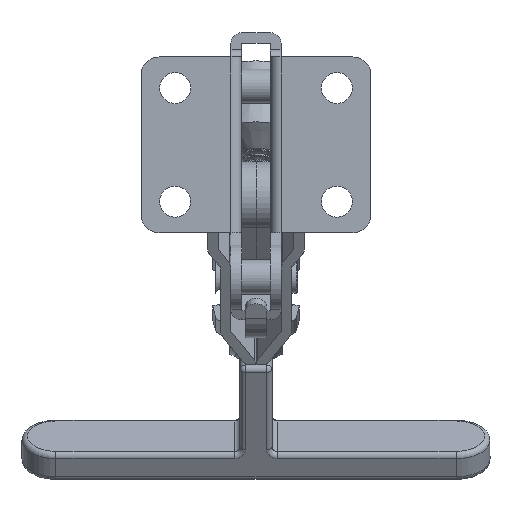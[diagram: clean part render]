
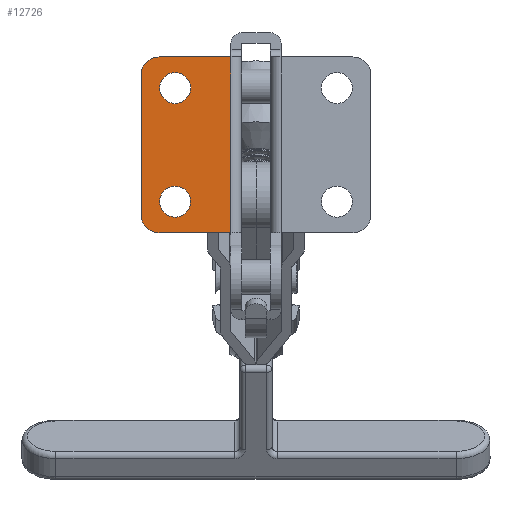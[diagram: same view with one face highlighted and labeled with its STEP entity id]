
A CAD part, front view. The second image highlights one B-rep face of the part: STEP entity #12726.
In plain terms, the highlighted planar face has unit normal (0, -1, 0).
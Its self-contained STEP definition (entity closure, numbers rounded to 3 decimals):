
#947=FACE_BOUND('',#2419,.T.);
#948=FACE_BOUND('',#2420,.T.);
#1168=PLANE('',#13614);
#1685=FACE_OUTER_BOUND('',#2418,.T.);
#2418=EDGE_LOOP('',(#10728,#10729,#10730,#10731,#10732,#10733));
#2419=EDGE_LOOP('',(#10734,#10735));
#2420=EDGE_LOOP('',(#10736,#10737));
#3412=LINE('',#27738,#4449);
#3442=LINE('',#27820,#4479);
#3445=LINE('',#27826,#4482);
#3446=LINE('',#27829,#4483);
#4449=VECTOR('',#15572,1000.);
#4479=VECTOR('',#15636,1000.);
#4482=VECTOR('',#15641,1000.);
#4483=VECTOR('',#15646,1000.);
#4886=CIRCLE('',#13552,4.35);
#4887=CIRCLE('',#13553,4.35);
#4890=CIRCLE('',#13557,4.35);
#4891=CIRCLE('',#13558,4.35);
#4932=CIRCLE('',#13615,5.);
#4933=CIRCLE('',#13616,5.);
#5912=VERTEX_POINT('',#27611);
#5913=VERTEX_POINT('',#27613);
#5916=VERTEX_POINT('',#27621);
#5917=VERTEX_POINT('',#27623);
#5965=VERTEX_POINT('',#27736);
#5966=VERTEX_POINT('',#27737);
#6000=VERTEX_POINT('',#27818);
#6001=VERTEX_POINT('',#27819);
#6002=VERTEX_POINT('',#27824);
#6003=VERTEX_POINT('',#27825);
#7558=EDGE_CURVE('',#5912,#5913,#4886,.T.);
#7559=EDGE_CURVE('',#5913,#5912,#4887,.T.);
#7563=EDGE_CURVE('',#5916,#5917,#4890,.T.);
#7564=EDGE_CURVE('',#5917,#5916,#4891,.T.);
#7619=EDGE_CURVE('',#5965,#5966,#3412,.T.);
#7660=EDGE_CURVE('',#6000,#6001,#3442,.T.);
#7663=EDGE_CURVE('',#6002,#6003,#3445,.T.);
#7664=EDGE_CURVE('',#6002,#6000,#4932,.T.);
#7665=EDGE_CURVE('',#6001,#5965,#4933,.T.);
#7666=EDGE_CURVE('',#5966,#6003,#3446,.T.);
#10728=ORIENTED_EDGE('',*,*,#7663,.F.);
#10729=ORIENTED_EDGE('',*,*,#7664,.T.);
#10730=ORIENTED_EDGE('',*,*,#7660,.T.);
#10731=ORIENTED_EDGE('',*,*,#7665,.T.);
#10732=ORIENTED_EDGE('',*,*,#7619,.T.);
#10733=ORIENTED_EDGE('',*,*,#7666,.T.);
#10734=ORIENTED_EDGE('',*,*,#7559,.F.);
#10735=ORIENTED_EDGE('',*,*,#7558,.F.);
#10736=ORIENTED_EDGE('',*,*,#7564,.F.);
#10737=ORIENTED_EDGE('',*,*,#7563,.F.);
#12726=ADVANCED_FACE('',(#1685,#947,#948),#1168,.F.);
#13552=AXIS2_PLACEMENT_3D('',#27614,#15456,#15457);
#13553=AXIS2_PLACEMENT_3D('',#27615,#15458,#15459);
#13557=AXIS2_PLACEMENT_3D('',#27624,#15467,#15468);
#13558=AXIS2_PLACEMENT_3D('',#27625,#15469,#15470);
#13614=AXIS2_PLACEMENT_3D('',#27823,#15639,#15640);
#13615=AXIS2_PLACEMENT_3D('',#27827,#15642,#15643);
#13616=AXIS2_PLACEMENT_3D('',#27828,#15644,#15645);
#15456=DIRECTION('center_axis',(0.,-1.,0.));
#15457=DIRECTION('ref_axis',(0.,0.,-1.));
#15458=DIRECTION('center_axis',(0.,-1.,0.));
#15459=DIRECTION('ref_axis',(0.,0.,-1.));
#15467=DIRECTION('center_axis',(0.,-1.,0.));
#15468=DIRECTION('ref_axis',(0.,0.,-1.));
#15469=DIRECTION('center_axis',(0.,-1.,0.));
#15470=DIRECTION('ref_axis',(0.,0.,-1.));
#15572=DIRECTION('',(1.,0.,0.));
#15636=DIRECTION('',(0.,0.,-1.));
#15639=DIRECTION('center_axis',(0.,1.,0.));
#15640=DIRECTION('ref_axis',(-1.,0.,0.));
#15641=DIRECTION('',(1.,0.,0.));
#15642=DIRECTION('center_axis',(0.,-1.,0.));
#15643=DIRECTION('ref_axis',(-1.,0.,0.));
#15644=DIRECTION('center_axis',(0.,-1.,0.));
#15645=DIRECTION('ref_axis',(-1.,0.,0.));
#15646=DIRECTION('',(0.,0.,1.));
#27611=CARTESIAN_POINT('',(-22.65,0.,13.05));
#27613=CARTESIAN_POINT('',(-22.65,0.,4.35));
#27614=CARTESIAN_POINT('Origin',(-22.65,0.,8.7));
#27615=CARTESIAN_POINT('Origin',(-22.65,0.,8.7));
#27621=CARTESIAN_POINT('',(-22.65,0.,44.85));
#27623=CARTESIAN_POINT('',(-22.65,0.,36.15));
#27624=CARTESIAN_POINT('Origin',(-22.65,0.,40.5));
#27625=CARTESIAN_POINT('Origin',(-22.65,0.,40.5));
#27736=CARTESIAN_POINT('',(-27.15,0.,0.));
#27737=CARTESIAN_POINT('',(-7.,0.,0.));
#27738=CARTESIAN_POINT('',(-4.,0.,0.));
#27818=CARTESIAN_POINT('',(-32.15,0.,44.2));
#27819=CARTESIAN_POINT('',(-32.15,0.,5.));
#27820=CARTESIAN_POINT('',(-32.15,0.,56.));
#27823=CARTESIAN_POINT('Origin',(-4.,0.,56.));
#27824=CARTESIAN_POINT('',(-27.15,0.,49.2));
#27825=CARTESIAN_POINT('',(-7.,0.,49.2));
#27826=CARTESIAN_POINT('',(-32.15,0.,49.2));
#27827=CARTESIAN_POINT('Origin',(-27.15,0.,44.2));
#27828=CARTESIAN_POINT('Origin',(-27.15,0.,5.));
#27829=CARTESIAN_POINT('',(-7.,0.,56.));
